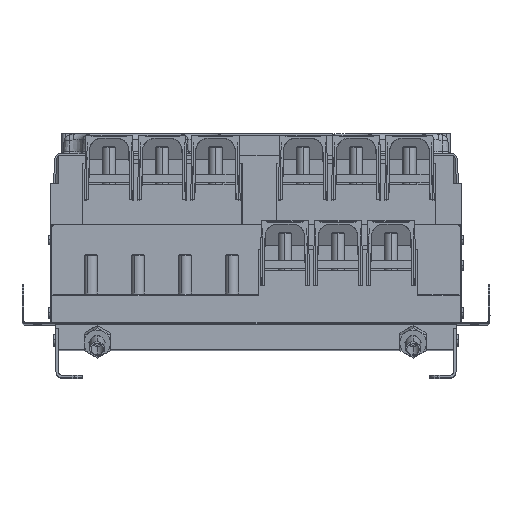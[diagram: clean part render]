
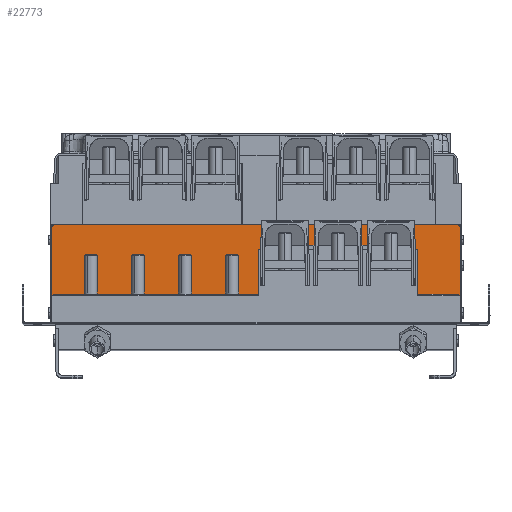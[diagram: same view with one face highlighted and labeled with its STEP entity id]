
A CAD part, top view. The second image highlights one B-rep face of the part: STEP entity #22773.
In plain terms, the highlighted planar face has unit normal (0, 0, 1).
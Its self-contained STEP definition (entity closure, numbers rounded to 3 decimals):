
#940 = DIRECTION ( 'NONE',  ( 0., 1., 0. ) ) ;
#1147 = EDGE_LOOP ( 'NONE', ( #76612, #56144, #102335, #52758, #31641, #20987, #5304, #26685, #53765, #96286, #97891, #56674, #2259, #86135, #32741, #4021 ) ) ;
#1632 = DIRECTION ( 'NONE',  ( 0., 1., 0. ) ) ;
#2259 = ORIENTED_EDGE ( 'NONE', *, *, #14474, .T. ) ;
#2691 = CARTESIAN_POINT ( 'NONE',  ( 192.423, 94.2, 179. ) ) ;
#3590 = VECTOR ( 'NONE', #71973, 1000. ) ;
#3806 = DIRECTION ( 'NONE',  ( 1., 0., 0. ) ) ;
#4021 = ORIENTED_EDGE ( 'NONE', *, *, #96343, .T. ) ;
#4484 = DIRECTION ( 'NONE',  ( 1., 0., 0. ) ) ;
#5304 = ORIENTED_EDGE ( 'NONE', *, *, #52901, .T. ) ;
#5638 = VERTEX_POINT ( 'NONE', #29305 ) ;
#5955 = EDGE_CURVE ( 'NONE', #92156, #36763, #66821, .T. ) ;
#7639 = FACE_OUTER_BOUND ( 'NONE', #1147, .T. ) ;
#8359 = DIRECTION ( 'NONE',  ( 0., -1., 0. ) ) ;
#8673 = DIRECTION ( 'NONE',  ( 0., 0., 1. ) ) ;
#9344 = CARTESIAN_POINT ( 'NONE',  ( 5.351, 63.129, 179. ) ) ;
#10164 = CARTESIAN_POINT ( 'NONE',  ( 190.479, 89., 179. ) ) ;
#10968 = CARTESIAN_POINT ( 'NONE',  ( 247., 33., 179. ) ) ;
#12845 = CARTESIAN_POINT ( 'NONE',  ( 192.965, 63.129, 179. ) ) ;
#14474 = EDGE_CURVE ( 'NONE', #92156, #69882, #41673, .T. ) ;
#14561 = VERTEX_POINT ( 'NONE', #84002 ) ;
#15442 = PLANE ( 'NONE',  #64752 ) ;
#15869 = VERTEX_POINT ( 'NONE', #57307 ) ;
#17337 = CARTESIAN_POINT ( 'NONE',  ( -247., 35., 179. ) ) ;
#17709 = VERTEX_POINT ( 'NONE', #86421 ) ;
#17938 = CARTESIAN_POINT ( 'NONE',  ( 195.511, 89., 179. ) ) ;
#19402 = LINE ( 'NONE', #74271, #29570 ) ;
#20755 = CARTESIAN_POINT ( 'NONE',  ( -247., 33., 179. ) ) ;
#20987 = ORIENTED_EDGE ( 'NONE', *, *, #96178, .T. ) ;
#22773 = ADVANCED_FACE ( 'NONE', ( #7639 ), #15442, .T. ) ;
#24376 = LINE ( 'NONE', #9344, #3590 ) ;
#25368 = EDGE_CURVE ( 'NONE', #67367, #14561, #33581, .T. ) ;
#26685 = ORIENTED_EDGE ( 'NONE', *, *, #56321, .F. ) ;
#28868 = DIRECTION ( 'NONE',  ( 0., -1., 0. ) ) ;
#29108 = VERTEX_POINT ( 'NONE', #51749 ) ;
#29305 = CARTESIAN_POINT ( 'NONE',  ( 247., 115., 179. ) ) ;
#29570 = VECTOR ( 'NONE', #89802, 1000. ) ;
#29579 = VERTEX_POINT ( 'NONE', #17938 ) ;
#30738 = EDGE_CURVE ( 'NONE', #15869, #29579, #79557, .T. ) ;
#30859 = CARTESIAN_POINT ( 'NONE',  ( 243., 119., 179. ) ) ;
#31135 = LINE ( 'NONE', #62708, #53890 ) ;
#31641 = ORIENTED_EDGE ( 'NONE', *, *, #33886, .T. ) ;
#32098 = VERTEX_POINT ( 'NONE', #102228 ) ;
#32741 = ORIENTED_EDGE ( 'NONE', *, *, #25368, .T. ) ;
#33581 = LINE ( 'NONE', #71886, #36641 ) ;
#33747 = CARTESIAN_POINT ( 'NONE',  ( -247., 1., 179. ) ) ;
#33871 = CARTESIAN_POINT ( 'NONE',  ( -247., 115., 179. ) ) ;
#33873 = AXIS2_PLACEMENT_3D ( 'NONE', #98469, #81907, #91188 ) ;
#33886 = EDGE_CURVE ( 'NONE', #29579, #69977, #74440, .T. ) ;
#36099 = CARTESIAN_POINT ( 'NONE',  ( -243., 119., 179. ) ) ;
#36641 = VECTOR ( 'NONE', #940, 1000. ) ;
#36763 = VERTEX_POINT ( 'NONE', #33871 ) ;
#41202 = VECTOR ( 'NONE', #4484, 1000. ) ;
#41463 = CARTESIAN_POINT ( 'NONE',  ( -44.533, 94.2, 179. ) ) ;
#41673 = LINE ( 'NONE', #50421, #42257 ) ;
#41857 = AXIS2_PLACEMENT_3D ( 'NONE', #46969, #61965, #71783 ) ;
#42257 = VECTOR ( 'NONE', #72704, 1000. ) ;
#43802 = EDGE_CURVE ( 'NONE', #36763, #17709, #74851, .T. ) ;
#44045 = VERTEX_POINT ( 'NONE', #76226 ) ;
#45894 = EDGE_CURVE ( 'NONE', #54484, #5638, #70198, .T. ) ;
#46969 = CARTESIAN_POINT ( 'NONE',  ( -243., 115., 179. ) ) ;
#49695 = DIRECTION ( 'NONE',  ( 1., 0., 0. ) ) ;
#50421 = CARTESIAN_POINT ( 'NONE',  ( -245., 35., 179. ) ) ;
#51511 = VECTOR ( 'NONE', #73448, 1000. ) ;
#51749 = CARTESIAN_POINT ( 'NONE',  ( 5.803, 89., 179. ) ) ;
#52211 = CARTESIAN_POINT ( 'NONE',  ( 245., 35., 179. ) ) ;
#52758 = ORIENTED_EDGE ( 'NONE', *, *, #30738, .T. ) ;
#52901 = EDGE_CURVE ( 'NONE', #44045, #86389, #92048, .T. ) ;
#53602 = VECTOR ( 'NONE', #76511, 1000. ) ;
#53765 = ORIENTED_EDGE ( 'NONE', *, *, #45894, .F. ) ;
#53890 = VECTOR ( 'NONE', #8359, 1000. ) ;
#54484 = VERTEX_POINT ( 'NONE', #30859 ) ;
#56144 = ORIENTED_EDGE ( 'NONE', *, *, #69652, .T. ) ;
#56321 = EDGE_CURVE ( 'NONE', #5638, #86389, #31135, .T. ) ;
#56674 = ORIENTED_EDGE ( 'NONE', *, *, #5955, .F. ) ;
#57307 = CARTESIAN_POINT ( 'NONE',  ( 192.514, 89., 179. ) ) ;
#58660 = VECTOR ( 'NONE', #1632, 1000. ) ;
#58805 = VECTOR ( 'NONE', #49695, 1000. ) ;
#59005 = LINE ( 'NONE', #41463, #58805 ) ;
#59968 = LINE ( 'NONE', #12845, #51511 ) ;
#60830 = CARTESIAN_POINT ( 'NONE',  ( 195.511, 35., 179. ) ) ;
#60860 = EDGE_CURVE ( 'NONE', #69882, #67367, #19402, .T. ) ;
#61547 = EDGE_CURVE ( 'NONE', #17709, #54484, #89437, .T. ) ;
#61965 = DIRECTION ( 'NONE',  ( 0., 0., -1. ) ) ;
#62708 = CARTESIAN_POINT ( 'NONE',  ( 247., 115., 179. ) ) ;
#64752 = AXIS2_PLACEMENT_3D ( 'NONE', #102369, #8673, #80094 ) ;
#65350 = EDGE_CURVE ( 'NONE', #93028, #15869, #59968, .T. ) ;
#65432 = LINE ( 'NONE', #17337, #85711 ) ;
#66821 = LINE ( 'NONE', #33747, #58660 ) ;
#67367 = VERTEX_POINT ( 'NONE', #95105 ) ;
#69652 = EDGE_CURVE ( 'NONE', #32098, #93028, #59005, .T. ) ;
#69882 = VERTEX_POINT ( 'NONE', #88842 ) ;
#69977 = VERTEX_POINT ( 'NONE', #60830 ) ;
#70198 = CIRCLE ( 'NONE', #33873, 4. ) ;
#70537 = DIRECTION ( 'NONE',  ( 1., 0., 0. ) ) ;
#71783 = DIRECTION ( 'NONE',  ( 1., 0., 0. ) ) ;
#71886 = CARTESIAN_POINT ( 'NONE',  ( 2.806, 35., 179. ) ) ;
#71973 = DIRECTION ( 'NONE',  ( -0.017, -1., 0. ) ) ;
#72704 = DIRECTION ( 'NONE',  ( 0.707, 0.707, 0. ) ) ;
#73448 = DIRECTION ( 'NONE',  ( 0.017, -1., 0. ) ) ;
#74271 = CARTESIAN_POINT ( 'NONE',  ( -247., 35., 179. ) ) ;
#74440 = LINE ( 'NONE', #84729, #87470 ) ;
#74851 = CIRCLE ( 'NONE', #41857, 4. ) ;
#76226 = CARTESIAN_POINT ( 'NONE',  ( 245., 35., 179. ) ) ;
#76511 = DIRECTION ( 'NONE',  ( 0.707, -0.707, 0. ) ) ;
#76612 = ORIENTED_EDGE ( 'NONE', *, *, #83230, .F. ) ;
#78311 = CARTESIAN_POINT ( 'NONE',  ( 2.806, 89., 179. ) ) ;
#78813 = LINE ( 'NONE', #78311, #85784 ) ;
#79557 = LINE ( 'NONE', #10164, #88678 ) ;
#80094 = DIRECTION ( 'NONE',  ( 1., 0., 0. ) ) ;
#80569 = DIRECTION ( 'NONE',  ( 1., 0., 0. ) ) ;
#81907 = DIRECTION ( 'NONE',  ( 0., 0., -1. ) ) ;
#83230 = EDGE_CURVE ( 'NONE', #32098, #29108, #24376, .T. ) ;
#84002 = CARTESIAN_POINT ( 'NONE',  ( 2.806, 89., 179. ) ) ;
#84729 = CARTESIAN_POINT ( 'NONE',  ( 195.511, 89., 179. ) ) ;
#85711 = VECTOR ( 'NONE', #3806, 1000. ) ;
#85784 = VECTOR ( 'NONE', #70537, 1000. ) ;
#86135 = ORIENTED_EDGE ( 'NONE', *, *, #60860, .T. ) ;
#86389 = VERTEX_POINT ( 'NONE', #10968 ) ;
#86421 = CARTESIAN_POINT ( 'NONE',  ( -243., 119., 179. ) ) ;
#87470 = VECTOR ( 'NONE', #28868, 1000. ) ;
#88678 = VECTOR ( 'NONE', #80569, 1000. ) ;
#88842 = CARTESIAN_POINT ( 'NONE',  ( -245., 35., 179. ) ) ;
#89437 = LINE ( 'NONE', #36099, #41202 ) ;
#89802 = DIRECTION ( 'NONE',  ( 1., 0., 0. ) ) ;
#91188 = DIRECTION ( 'NONE',  ( 1., 0., 0. ) ) ;
#92048 = LINE ( 'NONE', #52211, #53602 ) ;
#92156 = VERTEX_POINT ( 'NONE', #20755 ) ;
#93028 = VERTEX_POINT ( 'NONE', #2691 ) ;
#95105 = CARTESIAN_POINT ( 'NONE',  ( 2.806, 35., 179. ) ) ;
#96178 = EDGE_CURVE ( 'NONE', #69977, #44045, #65432, .T. ) ;
#96286 = ORIENTED_EDGE ( 'NONE', *, *, #61547, .F. ) ;
#96343 = EDGE_CURVE ( 'NONE', #14561, #29108, #78813, .T. ) ;
#97891 = ORIENTED_EDGE ( 'NONE', *, *, #43802, .F. ) ;
#98469 = CARTESIAN_POINT ( 'NONE',  ( 243., 115., 179. ) ) ;
#102228 = CARTESIAN_POINT ( 'NONE',  ( 5.894, 94.2, 179. ) ) ;
#102335 = ORIENTED_EDGE ( 'NONE', *, *, #65350, .T. ) ;
#102369 = CARTESIAN_POINT ( 'NONE',  ( -247., 31., 179. ) ) ;
